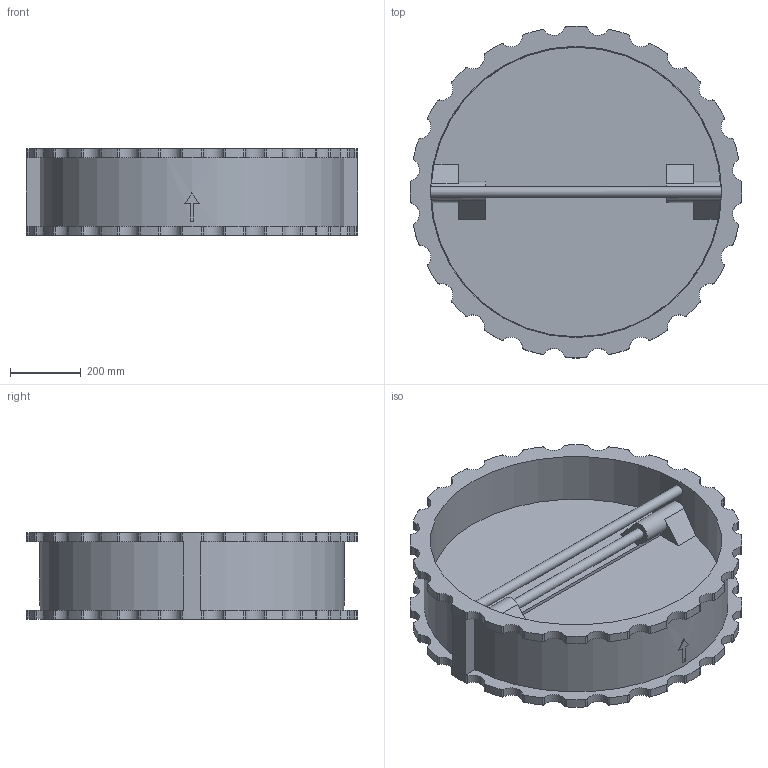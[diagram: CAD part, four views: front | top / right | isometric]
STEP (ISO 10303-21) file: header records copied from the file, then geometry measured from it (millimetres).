
FILE_DESCRIPTION(('STEP AP203'), '1');
FILE_NAME('孰囡囗 钺疣蝽 溻篚耱忸瘅囹 戾骠豚眦邂 010C.Y DN800', '', ('UNSPECIFIED'), ('UNSPECIFIED'), 'ASCON STEP Converter 1.6', 'ASCON Math Kernel', '');
FILE_SCHEMA(('CONFIG_CONTROL_DESIGN'));
Length unit declared in the file: millimetre
Bounding box: 939.83 x 939.83 x 245 mm (x, y, z)
Volume: 33028580.7 mm3; surface area: 3169351.3 mm2
Topology: 1 solids, 1 shells, 264 faces, 780 edges, 518 vertices
Faces by surface type: cylinder 205, plane 58, cone 1
Full cylindrical faces by diameter (mm): 30 x4, 825 x1
Entity records: 12630 total; most frequent: CARTESIAN_POINT 3071, DIRECTION 1700, ORIENTED_EDGE 1548, EDGE_CURVE 774, AXIS2_PLACEMENT_3D 689, VERTEX_POINT 518, CIRCLE 424, LINE 322
